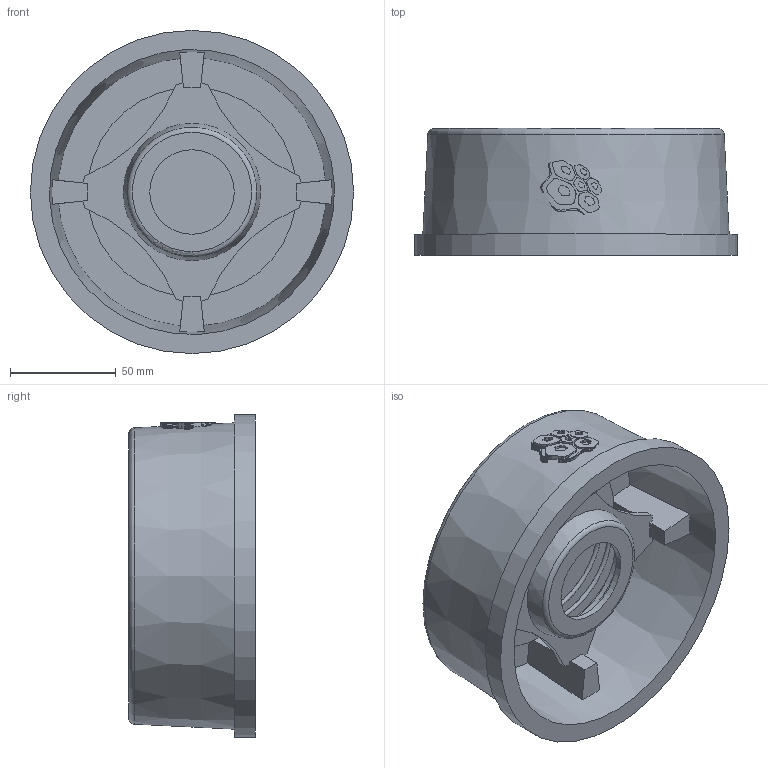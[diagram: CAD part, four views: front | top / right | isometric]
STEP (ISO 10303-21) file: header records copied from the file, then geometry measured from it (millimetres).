
FILE_DESCRIPTION(('STEP AP203'), '1');
FILE_NAME('3D_404-100-40', '', ('UNSPECIFIED'), ('UNSPECIFIED'), 'C3D Converter', 'C3D Toolkit', '');
FILE_SCHEMA(('CONFIG_CONTROL_DESIGN'));
Length unit declared in the file: millimetre
Bounding box: 153 x 60 x 153 mm (x, y, z)
Volume: 291220.3 mm3; surface area: 111337.5 mm2
Topology: 1 solids, 1 shells, 891 faces, 2616 edges, 1741 vertices
Faces by surface type: plane 857, cylinder 20, cone 8, torus 5, bspline 1
Full cylindrical faces by diameter (mm): 40 x1, 59.046 x1, 85 x1, 153 x1
Entity records: 40565 total; most frequent: CARTESIAN_POINT 11304, ORIENTED_EDGE 5204, DIRECTION 3625, EDGE_CURVE 2602, VERTEX_POINT 1740, LINE 1729, VECTOR 1729, AXIS2_PLACEMENT_3D 948
